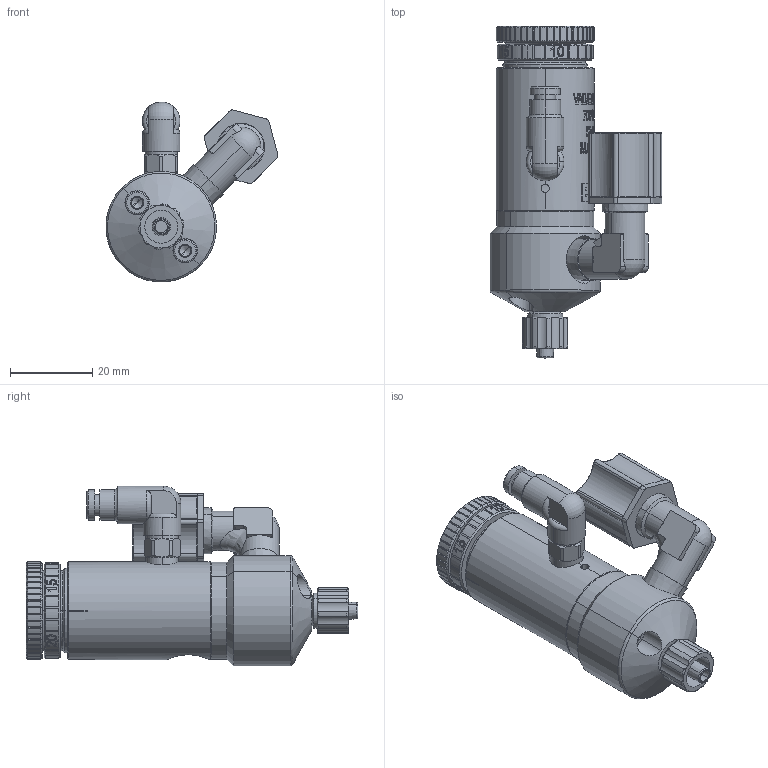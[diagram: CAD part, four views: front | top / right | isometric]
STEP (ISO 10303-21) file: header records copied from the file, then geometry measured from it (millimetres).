
FILE_DESCRIPTION (( 'STEP AP214' ), '1' );
FILE_NAME ('NORDSONEFD-7021410 752V DIAPHRAGM VALVE ACETAL HEAD.STEP', '2019-07-07T07:40:13', ( '' ), ( '' ), 'SwSTEP 2.0', 'SolidWorks 2019', '' );
FILE_SCHEMA (( 'AUTOMOTIVE_DESIGN' ));
Length unit declared in the file: inch
Products named in the file (1): NORDSONEFD-7021410 752V DIAPHRAGM VALVE ACETAL HEAD
Bounding box: 41.81 x 80.73 x 43.7 mm (x, y, z)
Volume: 38308.9 mm3; surface area: 11598.4 mm2
Topology: 1 solids, 1 shells, 1410 faces, 3750 edges, 2450 vertices
Faces by surface type: plane 573, bspline 405, cylinder 286, cone 77, torus 68, sphere 1
Entity records: 90507 total; most frequent: CARTESIAN_POINT 54729, ORIENTED_EDGE 7486, DIRECTION 4913, EDGE_CURVE 3743, VERTEX_POINT 2450, AXIS2_PLACEMENT_3D 1923, B_SPLINE_CURVE_WITH_KNOTS 1736, EDGE_LOOP 1525
